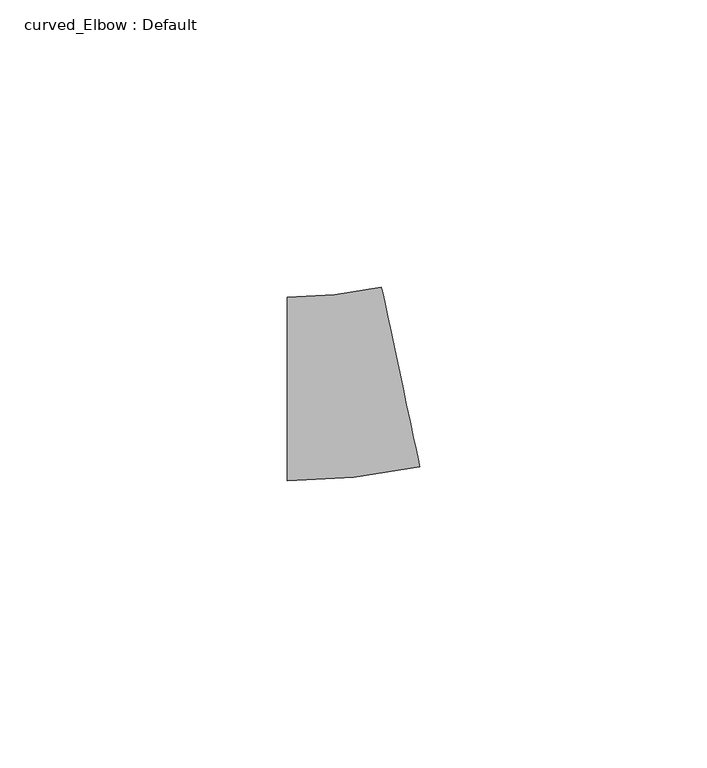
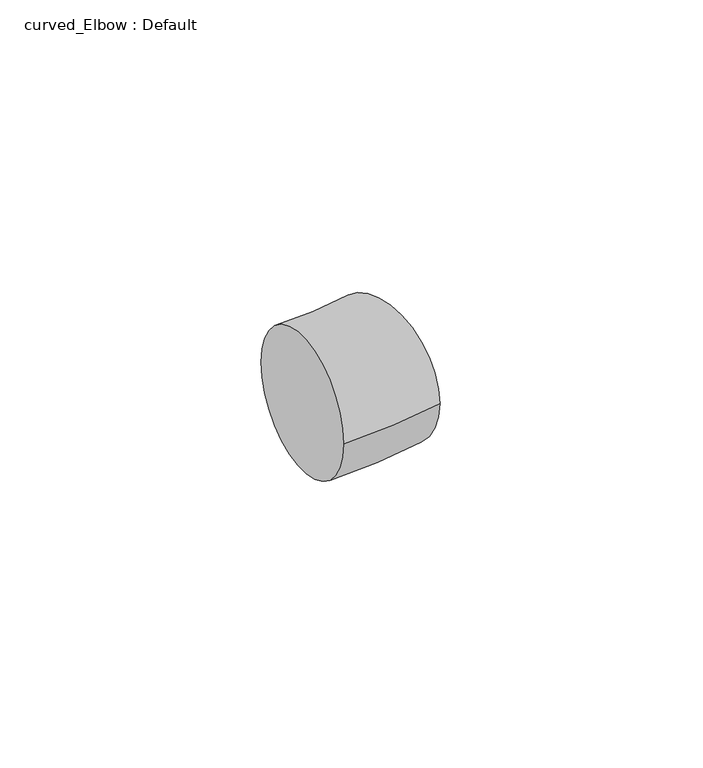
"""IFC4 building model written with IfcOpenShell, lengths in millimetres: pipe fitting geometry, curved_Elbow : Default."""

from ifc_helpers import new_model, si_unit, point, frame, origin, place, context, project, spatial, circle_curve, ellipse_curve, trimmed, source, transform, mapped, element, save
from ifc_brep_helpers import plane_surface, revolved_surface, advanced_brep


def curved_elbow_default_545ca236(model_context):
    return source(origin(), model_context, "Body", "AdvancedBrep", [
        advanced_brep(
        [(-9.9849024, -16.0, 0.0), (-9.9849024, 16.0, 0.0), (13.0932953, -13.5743837, 0.0), (6.4401212, 17.7263395, 0.0)],
        [
            (0, 1, circle_curve(frame((-9.9849024, 0.0, 0.0), z_axis=(-1.0, 0.0, 0.0), x_axis=(0.0, 1.0, 0.0)), 16.0)),
            (1, 0, circle_curve(frame((-9.9849024, 0.0, 0.0), z_axis=(-1.0, 0.0, 0.0), x_axis=(0.0, 1.0, 0.0)), 16.0)),
            (2, 3, circle_curve(frame((9.7667083, 2.0759779, 0.0), z_axis=(0.9781476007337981, 0.2079116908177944, 0.0), x_axis=(-0.2079116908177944, 0.9781476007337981, 0.0)), 16.0)),
            (3, 2, circle_curve(frame((9.7667083, 2.0759779, 0.0), z_axis=(0.9781476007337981, 0.2079116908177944, 0.0), x_axis=(-0.2079116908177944, 0.9781476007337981, 0.0)), 16.0)),
            (3, 1, circle_curve(frame((-9.9849024, 95.0, 0.0), z_axis=(0.0, 0.0, -1.0), x_axis=(0.0, -1.0, 0.0)), 79.0)),
            (0, 2, circle_curve(frame((-9.9849024, 95.0, 0.0), z_axis=(0.0, 0.0, 1.0), x_axis=(0.0, -1.0, 0.0)), 111.0)),
        ],
        [
            plane_surface(frame((-9.9849024, 0.0, 0.0), z_axis=(-1.0, 0.0, 0.0), x_axis=(0.0, 0.0, 1.0))),
            plane_surface(frame((9.7667083, 2.0759779, 0.0), z_axis=(0.9781476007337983, 0.20791169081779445, 0.0), x_axis=(0.0, 0.0, 1.0))),
            revolved_surface(trimmed(ellipse_curve(frame((-9.9849024, 0.0, 0.0), z_axis=(-1.0, 0.0, 0.0), x_axis=(0.0, 1.0, 0.0)), 16.0, 16.0), [point((-9.9849024, -16.0, 0.0))], [point((-9.9849024, 16.0, 0.0))], True, "CARTESIAN"), (-9.9849024, 95.0, 0.0), (0.0, 0.0, 1.0)),
            revolved_surface(trimmed(ellipse_curve(frame((-9.9849024, 0.0, 0.0), z_axis=(-1.0, 0.0, 0.0), x_axis=(0.0, 1.0, 0.0)), 16.0, 16.0), [point((-9.9849024, 16.0, 0.0))], [point((-9.9849024, -16.0, 0.0))], True, "CARTESIAN"), (-9.9849024, 95.0, 0.0), (0.0, 0.0, 1.0)),
        ],
        [
            (0, [[1, 2]]),
            (1, [[3, 4]]),
            (2, [[5, -1, 6, -4]]),
            (3, [[-6, -2, -5, -3]]),
        ],
    ),
    ])


if __name__ == "__main__":
    model = new_model("IFC4")
    model_context = context("Model", 3, world=origin())
    ifc_project = project(units=[si_unit("LENGTHUNIT", "METRE", prefix="MILLI")], contexts=[model_context])
    site = spatial("IfcSite", under=ifc_project)
    building = spatial("IfcBuilding", under=site)
    placement = place(None, origin())
    curved_elbow_default_shape = curved_elbow_default_545ca236(model_context)
    element("IfcPipeFitting", 1, ObjectType="curved_Elbow : Default", at=placement, inside=building, context=model_context, shape_type="MappedRepresentation", body=[
        mapped(curved_elbow_default_shape, transform((0.0, 0.0, 0.0), x_axis=(1.0, 0.0, 0.0), y_axis=(0.0, 1.0, 0.0), z_axis=(0.0, 0.0, 1.0))),
    ])
    save(model, "model.ifc")
